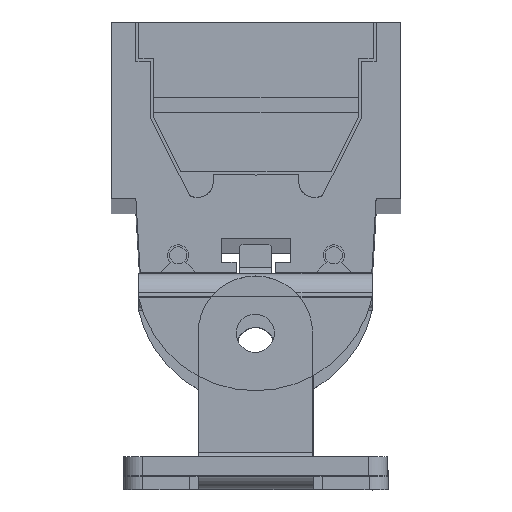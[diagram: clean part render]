
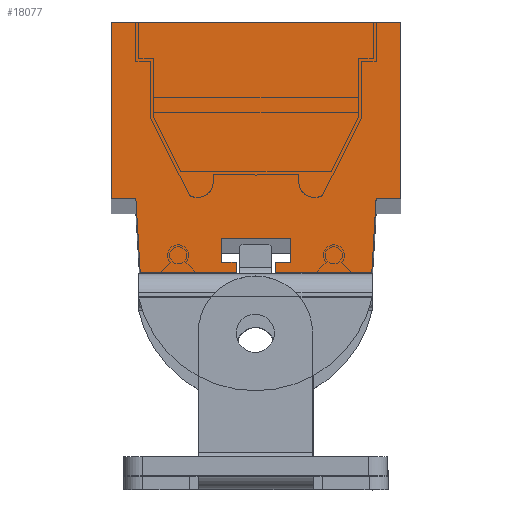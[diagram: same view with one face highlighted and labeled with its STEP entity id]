
A CAD part, top view. The second image highlights one B-rep face of the part: STEP entity #18077.
In plain terms, the highlighted planar face has unit normal (0, 0, 1).
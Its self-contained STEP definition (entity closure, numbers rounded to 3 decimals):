
#258 = EDGE_LOOP ( 'NONE', ( #2078, #4802, #13779, #22362, #15351, #23482, #22308, #4208, #17258, #10741, #6918, #21087, #12771, #18715, #654, #11323 ) ) ;
#654 = ORIENTED_EDGE ( 'NONE', *, *, #20999, .F. ) ;
#896 = CARTESIAN_POINT ( 'NONE',  ( 0., -18.52, 2. ) ) ;
#993 = DIRECTION ( 'NONE',  ( 0., 1., 0. ) ) ;
#1000 = LINE ( 'NONE', #15161, #2184 ) ;
#1111 = EDGE_CURVE ( 'NONE', #21149, #9191, #3020, .T. ) ;
#1168 = AXIS2_PLACEMENT_3D ( 'NONE', #22245, #8808, #16295 ) ;
#1236 = CARTESIAN_POINT ( 'NONE',  ( -30.36, 0., 2. ) ) ;
#1509 = CARTESIAN_POINT ( 'NONE',  ( -11.614, -22.658, 2. ) ) ;
#1540 = VECTOR ( 'NONE', #4866, 1000. ) ;
#1684 = DIRECTION ( 'NONE',  ( 1., 0., 0. ) ) ;
#1829 = CARTESIAN_POINT ( 'NONE',  ( -3.104, -26.221, 2. ) ) ;
#2078 = ORIENTED_EDGE ( 'NONE', *, *, #11113, .F. ) ;
#2184 = VECTOR ( 'NONE', #20951, 1000. ) ;
#2270 = CARTESIAN_POINT ( 'NONE',  ( -18.803, -22.658, 2. ) ) ;
#2297 = VECTOR ( 'NONE', #19895, 1000. ) ;
#2389 = DIRECTION ( 'NONE',  ( 0.059, -0.998, 0. ) ) ;
#2539 = CARTESIAN_POINT ( 'NONE',  ( 0., -18.52, 2. ) ) ;
#2674 = VECTOR ( 'NONE', #7902, 1000. ) ;
#2842 = CARTESIAN_POINT ( 'NONE',  ( -3.045, -26.221, 2. ) ) ;
#3020 = LINE ( 'NONE', #6589, #14250 ) ;
#3124 = EDGE_CURVE ( 'NONE', #5500, #17953, #14954, .T. ) ;
#3331 = VECTOR ( 'NONE', #6481, 1000. ) ;
#3380 = VERTEX_POINT ( 'NONE', #11537 ) ;
#3924 = LINE ( 'NONE', #17257, #3331 ) ;
#4208 = ORIENTED_EDGE ( 'NONE', *, *, #7142, .T. ) ;
#4566 = EDGE_CURVE ( 'NONE', #16717, #19015, #3924, .T. ) ;
#4585 = EDGE_CURVE ( 'NONE', #20091, #22183, #10137, .T. ) ;
#4768 = CARTESIAN_POINT ( 'NONE',  ( -13.169, -25.19, 2. ) ) ;
#4802 = ORIENTED_EDGE ( 'NONE', *, *, #6967, .F. ) ;
#4866 = DIRECTION ( 'NONE',  ( 0., -1., 0. ) ) ;
#5155 = VECTOR ( 'NONE', #2389, 1000. ) ;
#5291 = VERTEX_POINT ( 'NONE', #11568 ) ;
#5430 = EDGE_CURVE ( 'NONE', #10151, #11936, #21768, .T. ) ;
#5500 = VERTEX_POINT ( 'NONE', #896 ) ;
#6481 = DIRECTION ( 'NONE',  ( 0., 1., 0. ) ) ;
#6589 = CARTESIAN_POINT ( 'NONE',  ( -17.247, -25.19, 2. ) ) ;
#6592 = CARTESIAN_POINT ( 'NONE',  ( -3.104, -26.221, 2. ) ) ;
#6625 = CARTESIAN_POINT ( 'NONE',  ( 0., 0., 2. ) ) ;
#6918 = ORIENTED_EDGE ( 'NONE', *, *, #18245, .T. ) ;
#6967 = EDGE_CURVE ( 'NONE', #10151, #3380, #24379, .T. ) ;
#7142 = EDGE_CURVE ( 'NONE', #21218, #20091, #13634, .T. ) ;
#7463 = VECTOR ( 'NONE', #15474, 1000. ) ;
#7902 = DIRECTION ( 'NONE',  ( 1., 0., 0. ) ) ;
#7916 = LINE ( 'NONE', #14166, #8511 ) ;
#7963 = CARTESIAN_POINT ( 'NONE',  ( -27.774, -18.516, 2. ) ) ;
#7986 = VERTEX_POINT ( 'NONE', #10807 ) ;
#8237 = VERTEX_POINT ( 'NONE', #15064 ) ;
#8511 = VECTOR ( 'NONE', #8577, 1000. ) ;
#8565 = CARTESIAN_POINT ( 'NONE',  ( -18.803, -25.19, 2. ) ) ;
#8577 = DIRECTION ( 'NONE',  ( 0.059, 0.998, 0. ) ) ;
#8808 = DIRECTION ( 'NONE',  ( 0., 0., -1. ) ) ;
#9191 = VERTEX_POINT ( 'NONE', #23101 ) ;
#9792 = EDGE_CURVE ( 'NONE', #22183, #7986, #15809, .T. ) ;
#9824 = VECTOR ( 'NONE', #10571, 1000. ) ;
#10137 = LINE ( 'NONE', #2539, #22330 ) ;
#10151 = VERTEX_POINT ( 'NONE', #11084 ) ;
#10571 = DIRECTION ( 'NONE',  ( -1., 0., 0. ) ) ;
#10741 = ORIENTED_EDGE ( 'NONE', *, *, #9792, .T. ) ;
#10807 = CARTESIAN_POINT ( 'NONE',  ( -27.317, -26.221, 2. ) ) ;
#11084 = CARTESIAN_POINT ( 'NONE',  ( -13.169, -26.221, 2. ) ) ;
#11113 = EDGE_CURVE ( 'NONE', #3380, #16717, #1000, .T. ) ;
#11323 = ORIENTED_EDGE ( 'NONE', *, *, #4566, .F. ) ;
#11463 = EDGE_CURVE ( 'NONE', #9191, #8237, #17120, .T. ) ;
#11537 = CARTESIAN_POINT ( 'NONE',  ( -13.169, -25.19, 2. ) ) ;
#11568 = CARTESIAN_POINT ( 'NONE',  ( -18.803, -22.658, 2. ) ) ;
#11936 = VERTEX_POINT ( 'NONE', #2842 ) ;
#12217 = VECTOR ( 'NONE', #23755, 1000. ) ;
#12652 = EDGE_CURVE ( 'NONE', #11936, #17778, #7916, .T. ) ;
#12682 = CARTESIAN_POINT ( 'NONE',  ( -27.773, -18.52, 2. ) ) ;
#12771 = ORIENTED_EDGE ( 'NONE', *, *, #1111, .F. ) ;
#13634 = LINE ( 'NONE', #1236, #1540 ) ;
#13779 = ORIENTED_EDGE ( 'NONE', *, *, #5430, .T. ) ;
#14032 = DIRECTION ( 'NONE',  ( 1., 0., 0. ) ) ;
#14166 = CARTESIAN_POINT ( 'NONE',  ( -2.588, -18.516, 2. ) ) ;
#14240 = LINE ( 'NONE', #2270, #7463 ) ;
#14250 = VECTOR ( 'NONE', #14032, 1000. ) ;
#14472 = CARTESIAN_POINT ( 'NONE',  ( -30.36, 0., 2. ) ) ;
#14624 = PLANE ( 'NONE',  #1168 ) ;
#14719 = LINE ( 'NONE', #22589, #19487 ) ;
#14906 = DIRECTION ( 'NONE',  ( 0., -1., 0. ) ) ;
#14954 = LINE ( 'NONE', #23695, #22726 ) ;
#15064 = CARTESIAN_POINT ( 'NONE',  ( -17.247, -26.221, 2. ) ) ;
#15161 = CARTESIAN_POINT ( 'NONE',  ( -11.614, -25.19, 2. ) ) ;
#15351 = ORIENTED_EDGE ( 'NONE', *, *, #17889, .T. ) ;
#15474 = DIRECTION ( 'NONE',  ( -1., 0., 0. ) ) ;
#15809 = LINE ( 'NONE', #7963, #5155 ) ;
#16029 = EDGE_CURVE ( 'NONE', #5291, #21149, #14719, .T. ) ;
#16295 = DIRECTION ( 'NONE',  ( -1., 0., 0. ) ) ;
#16336 = VECTOR ( 'NONE', #17951, 1000. ) ;
#16424 = CARTESIAN_POINT ( 'NONE',  ( -30.36, -18.52, 2. ) ) ;
#16717 = VERTEX_POINT ( 'NONE', #17415 ) ;
#17120 = LINE ( 'NONE', #21778, #2297 ) ;
#17257 = CARTESIAN_POINT ( 'NONE',  ( -11.614, -22.658, 2. ) ) ;
#17258 = ORIENTED_EDGE ( 'NONE', *, *, #4585, .T. ) ;
#17415 = CARTESIAN_POINT ( 'NONE',  ( -11.614, -25.19, 2. ) ) ;
#17479 = LINE ( 'NONE', #19217, #2674 ) ;
#17778 = VERTEX_POINT ( 'NONE', #20830 ) ;
#17889 = EDGE_CURVE ( 'NONE', #17778, #5500, #17479, .T. ) ;
#17951 = DIRECTION ( 'NONE',  ( 0., 1., 0. ) ) ;
#17953 = VERTEX_POINT ( 'NONE', #6625 ) ;
#18077 = ADVANCED_FACE ( 'NONE', ( #20931 ), #14624, .F. ) ;
#18245 = EDGE_CURVE ( 'NONE', #7986, #8237, #23583, .T. ) ;
#18261 = CARTESIAN_POINT ( 'NONE',  ( 0., 0., 2. ) ) ;
#18715 = ORIENTED_EDGE ( 'NONE', *, *, #16029, .F. ) ;
#19015 = VERTEX_POINT ( 'NONE', #1509 ) ;
#19217 = CARTESIAN_POINT ( 'NONE',  ( 0., -18.52, 2. ) ) ;
#19487 = VECTOR ( 'NONE', #14906, 1000. ) ;
#19895 = DIRECTION ( 'NONE',  ( 0., -1., 0. ) ) ;
#20091 = VERTEX_POINT ( 'NONE', #16424 ) ;
#20616 = EDGE_CURVE ( 'NONE', #17953, #21218, #21728, .T. ) ;
#20830 = CARTESIAN_POINT ( 'NONE',  ( -2.589, -18.52, 2. ) ) ;
#20931 = FACE_OUTER_BOUND ( 'NONE', #258, .T. ) ;
#20951 = DIRECTION ( 'NONE',  ( 1., 0., 0. ) ) ;
#20999 = EDGE_CURVE ( 'NONE', #19015, #5291, #14240, .T. ) ;
#21087 = ORIENTED_EDGE ( 'NONE', *, *, #11463, .F. ) ;
#21149 = VERTEX_POINT ( 'NONE', #8565 ) ;
#21218 = VERTEX_POINT ( 'NONE', #14472 ) ;
#21693 = DIRECTION ( 'NONE',  ( 1., 0., 0. ) ) ;
#21728 = LINE ( 'NONE', #18261, #9824 ) ;
#21768 = LINE ( 'NONE', #6592, #12217 ) ;
#21778 = CARTESIAN_POINT ( 'NONE',  ( -17.247, -26.221, 2. ) ) ;
#22183 = VERTEX_POINT ( 'NONE', #12682 ) ;
#22245 = CARTESIAN_POINT ( 'NONE',  ( 0., 0., 2. ) ) ;
#22308 = ORIENTED_EDGE ( 'NONE', *, *, #20616, .T. ) ;
#22330 = VECTOR ( 'NONE', #21693, 1000. ) ;
#22362 = ORIENTED_EDGE ( 'NONE', *, *, #12652, .T. ) ;
#22424 = VECTOR ( 'NONE', #1684, 1000. ) ;
#22589 = CARTESIAN_POINT ( 'NONE',  ( -18.803, -25.19, 2. ) ) ;
#22726 = VECTOR ( 'NONE', #993, 1000. ) ;
#23101 = CARTESIAN_POINT ( 'NONE',  ( -17.247, -25.19, 2. ) ) ;
#23482 = ORIENTED_EDGE ( 'NONE', *, *, #3124, .T. ) ;
#23583 = LINE ( 'NONE', #1829, #22424 ) ;
#23695 = CARTESIAN_POINT ( 'NONE',  ( 0., 0., 2. ) ) ;
#23755 = DIRECTION ( 'NONE',  ( 1., 0., 0. ) ) ;
#24379 = LINE ( 'NONE', #4768, #16336 ) ;
